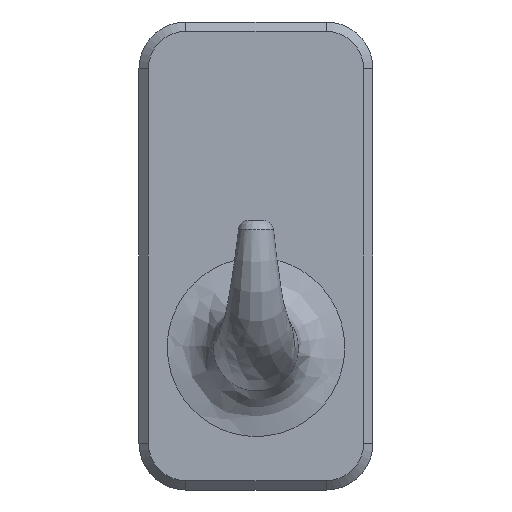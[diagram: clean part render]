
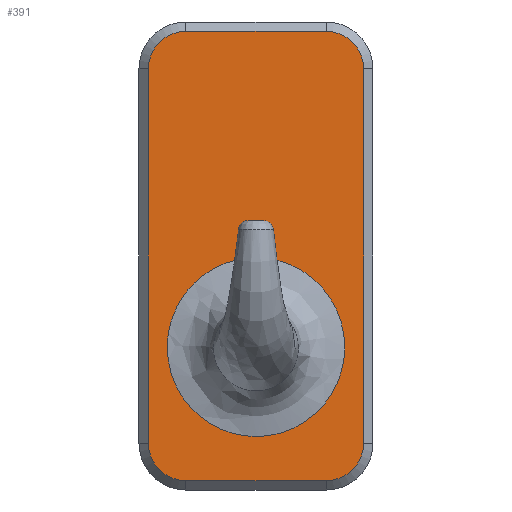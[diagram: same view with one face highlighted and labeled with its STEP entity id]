
A CAD part, front view. The second image highlights one B-rep face of the part: STEP entity #391.
In plain terms, the highlighted planar face has unit normal (0, -1, 0).
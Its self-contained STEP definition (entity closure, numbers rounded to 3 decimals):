
#18=FACE_BOUND('',#81,.T.);
#20=B_SPLINE_CURVE_WITH_KNOTS('',3,(#637,#638,#639,#640,#641,#642,#643,
#644,#645,#646,#647,#648,#649,#650,#651,#652,#653),.UNSPECIFIED.,.T.,.F.,
(4,1,1,1,1,1,1,1,1,1,1,1,1,1,4),(-3.142,-2.693,-2.244,
-1.795,-1.346,-0.898,-0.449,
0.15,0.449,0.898,1.346,
1.795,2.244,2.693,3.142),
 .UNSPECIFIED.);
#38=PLANE('',#440);
#55=FACE_OUTER_BOUND('',#80,.T.);
#80=EDGE_LOOP('',(#311,#312,#313,#314,#315,#316,#317,#318));
#81=EDGE_LOOP('',(#319));
#96=CIRCLE('',#420,4.);
#98=CIRCLE('',#424,4.);
#100=CIRCLE('',#428,4.);
#102=CIRCLE('',#432,4.);
#114=LINE('',#580,#145);
#118=LINE('',#592,#149);
#122=LINE('',#604,#153);
#126=LINE('',#615,#157);
#145=VECTOR('',#469,10.);
#149=VECTOR('',#481,10.);
#153=VECTOR('',#493,10.);
#157=VECTOR('',#505,10.);
#174=VERTEX_POINT('',#570);
#177=VERTEX_POINT('',#575);
#178=VERTEX_POINT('',#579);
#180=VERTEX_POINT('',#585);
#182=VERTEX_POINT('',#591);
#184=VERTEX_POINT('',#597);
#186=VERTEX_POINT('',#603);
#188=VERTEX_POINT('',#609);
#195=VERTEX_POINT('',#636);
#211=EDGE_CURVE('',#177,#174,#96,.T.);
#212=EDGE_CURVE('',#174,#178,#114,.T.);
#217=EDGE_CURVE('',#178,#180,#98,.T.);
#218=EDGE_CURVE('',#180,#182,#118,.T.);
#223=EDGE_CURVE('',#182,#184,#100,.T.);
#224=EDGE_CURVE('',#184,#186,#122,.T.);
#229=EDGE_CURVE('',#186,#188,#102,.T.);
#230=EDGE_CURVE('',#188,#177,#126,.T.);
#241=EDGE_CURVE('',#195,#195,#20,.T.);
#311=ORIENTED_EDGE('',*,*,#211,.F.);
#312=ORIENTED_EDGE('',*,*,#230,.F.);
#313=ORIENTED_EDGE('',*,*,#229,.F.);
#314=ORIENTED_EDGE('',*,*,#224,.F.);
#315=ORIENTED_EDGE('',*,*,#223,.F.);
#316=ORIENTED_EDGE('',*,*,#218,.F.);
#317=ORIENTED_EDGE('',*,*,#217,.F.);
#318=ORIENTED_EDGE('',*,*,#212,.F.);
#319=ORIENTED_EDGE('',*,*,#241,.F.);
#391=ADVANCED_FACE('',(#55,#18),#38,.F.);
#420=AXIS2_PLACEMENT_3D('',#577,#465,#466);
#424=AXIS2_PLACEMENT_3D('',#589,#477,#478);
#428=AXIS2_PLACEMENT_3D('',#601,#489,#490);
#432=AXIS2_PLACEMENT_3D('',#613,#501,#502);
#440=AXIS2_PLACEMENT_3D('',#635,#526,#527);
#465=DIRECTION('center_axis',(0.,1.,0.));
#466=DIRECTION('ref_axis',(0.707,0.,0.707));
#469=DIRECTION('',(0.,0.,-1.));
#477=DIRECTION('center_axis',(0.,1.,0.));
#478=DIRECTION('ref_axis',(0.707,0.,-0.707));
#481=DIRECTION('',(-1.,0.,0.));
#489=DIRECTION('center_axis',(0.,1.,0.));
#490=DIRECTION('ref_axis',(-0.707,0.,-0.707));
#493=DIRECTION('',(0.,0.,1.));
#501=DIRECTION('center_axis',(0.,1.,0.));
#502=DIRECTION('ref_axis',(-0.707,0.,0.707));
#505=DIRECTION('',(1.,0.,0.));
#526=DIRECTION('center_axis',(0.,1.,0.));
#527=DIRECTION('ref_axis',(1.,0.,0.));
#570=CARTESIAN_POINT('',(24.,0.,45.));
#575=CARTESIAN_POINT('',(20.,0.,49.));
#577=CARTESIAN_POINT('Origin',(20.,0.,45.));
#579=CARTESIAN_POINT('',(24.,0.,5.));
#580=CARTESIAN_POINT('',(24.,0.,37.5));
#585=CARTESIAN_POINT('',(20.,0.,1.));
#589=CARTESIAN_POINT('Origin',(20.,0.,5.));
#591=CARTESIAN_POINT('',(5.,0.,1.));
#592=CARTESIAN_POINT('',(18.75,0.,1.));
#597=CARTESIAN_POINT('',(1.,0.,5.));
#601=CARTESIAN_POINT('Origin',(5.,0.,5.));
#603=CARTESIAN_POINT('',(1.,0.,45.));
#604=CARTESIAN_POINT('',(1.,0.,12.5));
#609=CARTESIAN_POINT('',(5.,0.,49.));
#613=CARTESIAN_POINT('Origin',(5.,0.,45.));
#615=CARTESIAN_POINT('',(6.25,0.,49.));
#635=CARTESIAN_POINT('Origin',(12.5,0.,25.));
#636=CARTESIAN_POINT('',(3.021,0.,15.398));
#637=CARTESIAN_POINT('Ctrl Pts',(3.021,0.,15.398));
#638=CARTESIAN_POINT('Ctrl Pts',(2.997,0.,13.975));
#639=CARTESIAN_POINT('Ctrl Pts',(3.593,0.,11.118));
#640=CARTESIAN_POINT('Ctrl Pts',(6.254,0.,7.638));
#641=CARTESIAN_POINT('Ctrl Pts',(10.165,0.,5.665));
#642=CARTESIAN_POINT('Ctrl Pts',(14.549,0.,5.599));
#643=CARTESIAN_POINT('Ctrl Pts',(18.514,0.,7.455));
#644=CARTESIAN_POINT('Ctrl Pts',(21.596,0.,11.23));
#645=CARTESIAN_POINT('Ctrl Pts',(22.306,0.,15.632));
#646=CARTESIAN_POINT('Ctrl Pts',(21.095,0.,19.779));
#647=CARTESIAN_POINT('Ctrl Pts',(18.74,0.,22.873));
#648=CARTESIAN_POINT('Ctrl Pts',(14.835,0.,24.866));
#649=CARTESIAN_POINT('Ctrl Pts',(10.451,0.,24.932));
#650=CARTESIAN_POINT('Ctrl Pts',(6.49,0.,23.057));
#651=CARTESIAN_POINT('Ctrl Pts',(3.732,0.,19.658));
#652=CARTESIAN_POINT('Ctrl Pts',(3.044,0.,16.822));
#653=CARTESIAN_POINT('Ctrl Pts',(3.021,0.,15.398));
